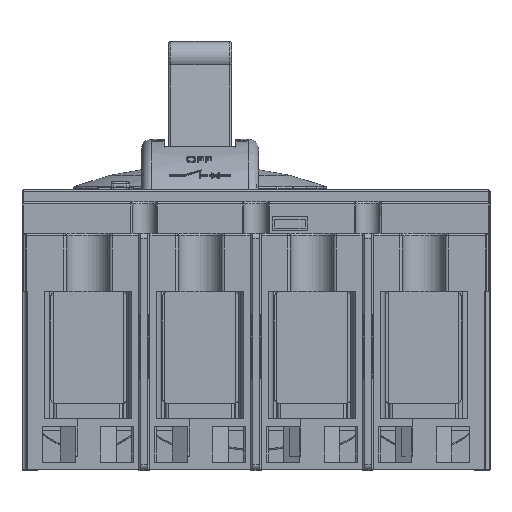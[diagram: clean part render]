
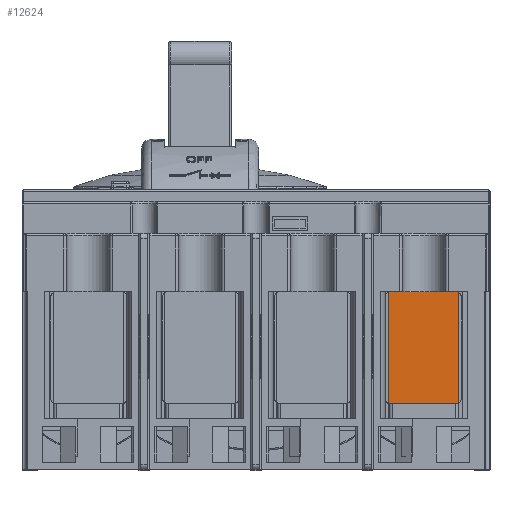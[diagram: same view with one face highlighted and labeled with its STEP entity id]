
A CAD part, left-side view. The second image highlights one B-rep face of the part: STEP entity #12624.
In plain terms, the highlighted planar face has unit normal (-1, 0, 0).
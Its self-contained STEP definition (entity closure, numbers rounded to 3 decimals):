
#7470=CIRCLE('',#128103,2.);
#7472=CIRCLE('',#128106,2.);
#7476=CIRCLE('',#128111,2.);
#7478=CIRCLE('',#128114,2.);
#12624=ADVANCED_FACE('',(#23765),#18982,.T.);
#18982=PLANE('',#128120);
#23765=FACE_OUTER_BOUND('',#30216,.T.);
#30216=EDGE_LOOP('',(#42875,#42876,#42877,#42878,#42879,#42880,#42881,#42882));
#42875=ORIENTED_EDGE('',*,*,#87419,.T.);
#42876=ORIENTED_EDGE('',*,*,#85906,.T.);
#42877=ORIENTED_EDGE('',*,*,#87422,.T.);
#42878=ORIENTED_EDGE('',*,*,#87437,.T.);
#42879=ORIENTED_EDGE('',*,*,#87427,.T.);
#42880=ORIENTED_EDGE('',*,*,#87271,.T.);
#42881=ORIENTED_EDGE('',*,*,#87430,.T.);
#42882=ORIENTED_EDGE('',*,*,#87438,.F.);
#73826=VERTEX_POINT('',#178537);
#73828=VERTEX_POINT('',#178540);
#74690=VERTEX_POINT('',#182660);
#74691=VERTEX_POINT('',#182662);
#74784=VERTEX_POINT('',#182966);
#74786=VERTEX_POINT('',#182972);
#74790=VERTEX_POINT('',#182982);
#74792=VERTEX_POINT('',#182988);
#85906=EDGE_CURVE('',#73828,#73826,#103117,.T.);
#87271=EDGE_CURVE('',#74691,#74690,#103884,.T.);
#87419=EDGE_CURVE('',#74784,#73828,#7470,.T.);
#87422=EDGE_CURVE('',#73826,#74786,#7472,.T.);
#87427=EDGE_CURVE('',#74790,#74691,#7476,.T.);
#87430=EDGE_CURVE('',#74690,#74792,#7478,.T.);
#87437=EDGE_CURVE('',#74786,#74790,#103965,.T.);
#87438=EDGE_CURVE('',#74784,#74792,#103966,.T.);
#103117=LINE('',#178539,#115398);
#103884=LINE('',#182661,#116165);
#103965=LINE('',#183000,#116246);
#103966=LINE('',#183001,#116247);
#115398=VECTOR('',#141766,1.);
#116165=VECTOR('',#144597,1.);
#116246=VECTOR('',#144986,1.);
#116247=VECTOR('',#144987,1.);
#128103=AXIS2_PLACEMENT_3D('',#182965,#144945,#144946);
#128106=AXIS2_PLACEMENT_3D('',#182971,#144952,#144953);
#128111=AXIS2_PLACEMENT_3D('',#182981,#144963,#144964);
#128114=AXIS2_PLACEMENT_3D('',#182987,#144970,#144971);
#128120=AXIS2_PLACEMENT_3D('',#183002,#144988,#144989);
#141766=DIRECTION('',(0.,1.,0.));
#144597=DIRECTION('',(0.,-1.,0.));
#144945=DIRECTION('',(-1.,0.,0.));
#144946=DIRECTION('',(0.,0.,1.));
#144952=DIRECTION('',(-1.,0.,0.));
#144953=DIRECTION('',(0.,0.,1.));
#144963=DIRECTION('',(-1.,0.,0.));
#144964=DIRECTION('',(0.,0.,1.));
#144970=DIRECTION('',(-1.,0.,0.));
#144971=DIRECTION('',(0.,0.,1.));
#144986=DIRECTION('',(0.,0.,-1.));
#144987=DIRECTION('',(0.,0.,-1.));
#144988=DIRECTION('',(-1.,0.,0.));
#144989=DIRECTION('',(0.,0.,1.));
#178537=CARTESIAN_POINT('',(-97.024,25.566,164.099));
#178539=CARTESIAN_POINT('',(-97.024,78.066,164.099));
#178540=CARTESIAN_POINT('',(-97.024,-0.834,164.099));
#182660=CARTESIAN_POINT('',(-97.024,-0.634,120.109));
#182661=CARTESIAN_POINT('',(-97.024,12.366,120.109));
#182662=CARTESIAN_POINT('',(-97.024,25.366,120.109));
#182965=CARTESIAN_POINT('',(-97.024,-0.634,162.109));
#182966=CARTESIAN_POINT('',(-97.024,-1.734,163.779));
#182971=CARTESIAN_POINT('',(-97.024,25.366,162.109));
#182972=CARTESIAN_POINT('',(-97.024,25.866,164.045));
#182981=CARTESIAN_POINT('',(-97.024,25.366,122.109));
#182982=CARTESIAN_POINT('',(-97.024,25.866,120.172));
#182987=CARTESIAN_POINT('',(-97.024,-0.634,122.109));
#182988=CARTESIAN_POINT('',(-97.024,-1.734,120.438));
#183000=CARTESIAN_POINT('',(-97.024,25.866,164.109));
#183001=CARTESIAN_POINT('',(-97.024,-1.734,164.109));
#183002=CARTESIAN_POINT('',(-97.024,12.366,120.109));
